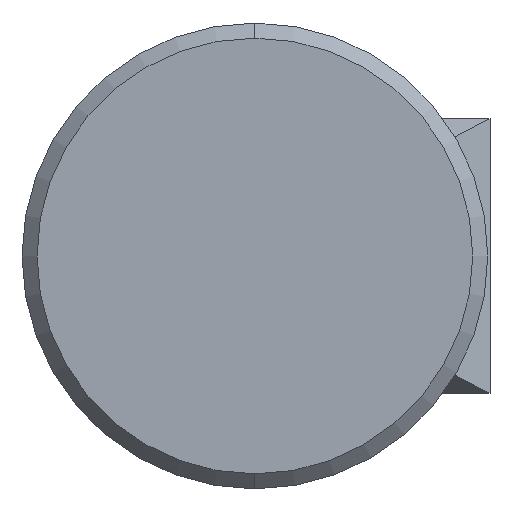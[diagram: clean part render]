
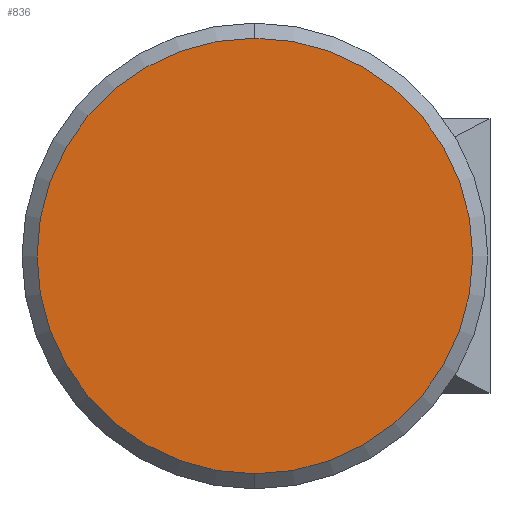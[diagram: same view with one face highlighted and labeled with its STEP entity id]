
A CAD part, front view. The second image highlights one B-rep face of the part: STEP entity #836.
In plain terms, the highlighted planar face has unit normal (0, -1, 0).
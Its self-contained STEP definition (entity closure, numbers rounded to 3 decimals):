
#24 = EDGE_CURVE ( 'NONE', #485, #460, #744, .T. ) ;
#63 = AXIS2_PLACEMENT_3D ( 'NONE', #1085, #1079, #1077 ) ;
#93 = AXIS2_PLACEMENT_3D ( 'NONE', #1037, #1036, #1035 ) ;
#105 = AXIS2_PLACEMENT_3D ( 'NONE', #1312, #1308, #1307 ) ;
#126 = EDGE_CURVE ( 'NONE', #460, #485, #706, .T. ) ;
#444 = ORIENTED_EDGE ( 'NONE', *, *, #24, .T. ) ;
#446 = ORIENTED_EDGE ( 'NONE', *, *, #126, .T. ) ;
#460 = VERTEX_POINT ( 'NONE', #1209 ) ;
#485 = VERTEX_POINT ( 'NONE', #1188 ) ;
#554 = FACE_OUTER_BOUND ( 'NONE', #795, .T. ) ;
#706 = CIRCLE ( 'NONE', #93, 14.5 ) ;
#744 = CIRCLE ( 'NONE', #105, 14.5 ) ;
#795 = EDGE_LOOP ( 'NONE', ( #444, #446 ) ) ;
#836 = ADVANCED_FACE ( 'NONE', ( #554 ), #1088, .F. ) ;
#1035 = DIRECTION ( 'NONE',  ( -1., 0., 0. ) ) ;
#1036 = DIRECTION ( 'NONE',  ( 0., -1., 0. ) ) ;
#1037 = CARTESIAN_POINT ( 'NONE',  ( 3.102, -17.2, 0. ) ) ;
#1077 = DIRECTION ( 'NONE',  ( -1., 0., 0. ) ) ;
#1079 = DIRECTION ( 'NONE',  ( 0., 1., 0. ) ) ;
#1085 = CARTESIAN_POINT ( 'NONE',  ( -12.398, -17.2, 0. ) ) ;
#1088 = PLANE ( 'NONE',  #63 ) ;
#1188 = CARTESIAN_POINT ( 'NONE',  ( 3.102, -17.2, 14.5 ) ) ;
#1209 = CARTESIAN_POINT ( 'NONE',  ( 3.102, -17.2, -14.5 ) ) ;
#1307 = DIRECTION ( 'NONE',  ( -1., 0., 0. ) ) ;
#1308 = DIRECTION ( 'NONE',  ( 0., -1., 0. ) ) ;
#1312 = CARTESIAN_POINT ( 'NONE',  ( 3.102, -17.2, 0. ) ) ;
